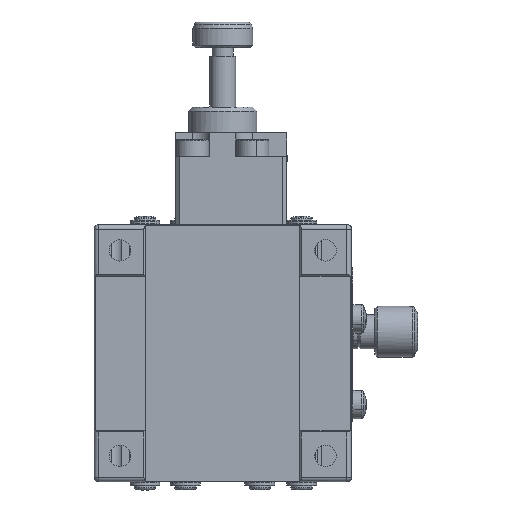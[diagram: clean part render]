
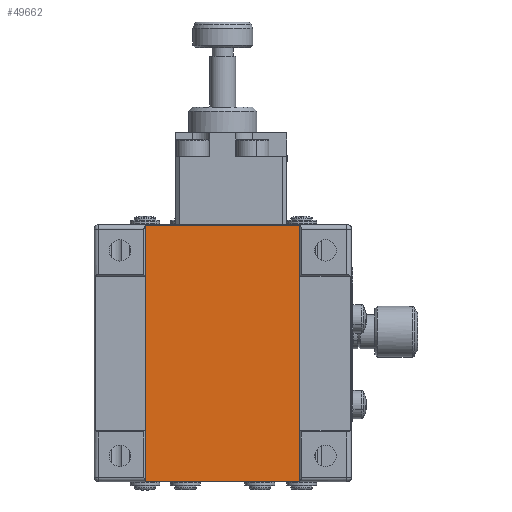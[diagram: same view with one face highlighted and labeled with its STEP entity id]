
A CAD part, front view. The second image highlights one B-rep face of the part: STEP entity #49662.
In plain terms, the highlighted planar face has unit normal (0, -1, 0).
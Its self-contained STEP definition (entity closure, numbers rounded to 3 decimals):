
#829 = CARTESIAN_POINT ( 'NONE',  ( -9.161, -10.228, -15. ) ) ;
#1122 = CARTESIAN_POINT ( 'NONE',  ( 8.839, -10.228, -14.958 ) ) ;
#3066 = VERTEX_POINT ( 'NONE', #1122 ) ;
#3499 = EDGE_CURVE ( 'NONE', #17906, #72084, #29357, .T. ) ;
#5511 = ORIENTED_EDGE ( 'NONE', *, *, #40669, .T. ) ;
#6500 = DIRECTION ( 'NONE',  ( -1., 0., 0. ) ) ;
#11195 = DIRECTION ( 'NONE',  ( 0., 0., 1. ) ) ;
#12672 = DIRECTION ( 'NONE',  ( 0., 0., 1. ) ) ;
#13840 = CARTESIAN_POINT ( 'NONE',  ( -9.161, -10.228, 14.958 ) ) ;
#14734 = CARTESIAN_POINT ( 'NONE',  ( 8.839, -10.228, 14.958 ) ) ;
#16138 = VECTOR ( 'NONE', #11195, 1000. ) ;
#17037 = EDGE_CURVE ( 'NONE', #3066, #38249, #56499, .T. ) ;
#17906 = VERTEX_POINT ( 'NONE', #58131 ) ;
#20394 = AXIS2_PLACEMENT_3D ( 'NONE', #829, #40300, #6500 ) ;
#24825 = LINE ( 'NONE', #58895, #53076 ) ;
#25122 = DIRECTION ( 'NONE',  ( 1., 0., 0. ) ) ;
#26152 = FACE_OUTER_BOUND ( 'NONE', #70020, .T. ) ;
#29357 = LINE ( 'NONE', #50660, #16138 ) ;
#37201 = ORIENTED_EDGE ( 'NONE', *, *, #17037, .T. ) ;
#38249 = VERTEX_POINT ( 'NONE', #14734 ) ;
#40055 = PLANE ( 'NONE',  #20394 ) ;
#40300 = DIRECTION ( 'NONE',  ( 0., 1., 0. ) ) ;
#40669 = EDGE_CURVE ( 'NONE', #38249, #72084, #60392, .T. ) ;
#41490 = VECTOR ( 'NONE', #12672, 1000. ) ;
#45392 = VECTOR ( 'NONE', #72972, 1000. ) ;
#49662 = ADVANCED_FACE ( 'NONE', ( #26152 ), #40055, .F. ) ;
#50660 = CARTESIAN_POINT ( 'NONE',  ( -9.161, -10.228, -15. ) ) ;
#53076 = VECTOR ( 'NONE', #25122, 1000. ) ;
#55934 = CARTESIAN_POINT ( 'NONE',  ( 8.839, -10.228, 14.958 ) ) ;
#56499 = LINE ( 'NONE', #63246, #41490 ) ;
#56726 = EDGE_CURVE ( 'NONE', #17906, #3066, #24825, .T. ) ;
#58131 = CARTESIAN_POINT ( 'NONE',  ( -9.161, -10.228, -14.958 ) ) ;
#58895 = CARTESIAN_POINT ( 'NONE',  ( -9.161, -10.228, -14.958 ) ) ;
#60392 = LINE ( 'NONE', #55934, #45392 ) ;
#63246 = CARTESIAN_POINT ( 'NONE',  ( 8.839, -10.228, -15. ) ) ;
#67625 = ORIENTED_EDGE ( 'NONE', *, *, #3499, .F. ) ;
#69552 = ORIENTED_EDGE ( 'NONE', *, *, #56726, .T. ) ;
#70020 = EDGE_LOOP ( 'NONE', ( #67625, #69552, #37201, #5511 ) ) ;
#72084 = VERTEX_POINT ( 'NONE', #13840 ) ;
#72972 = DIRECTION ( 'NONE',  ( -1., 0., 0. ) ) ;
